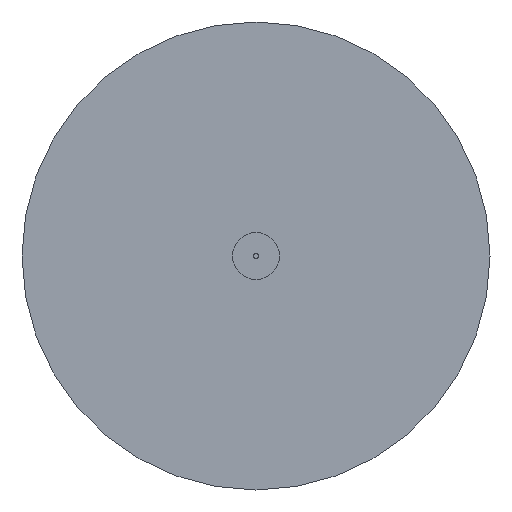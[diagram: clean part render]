
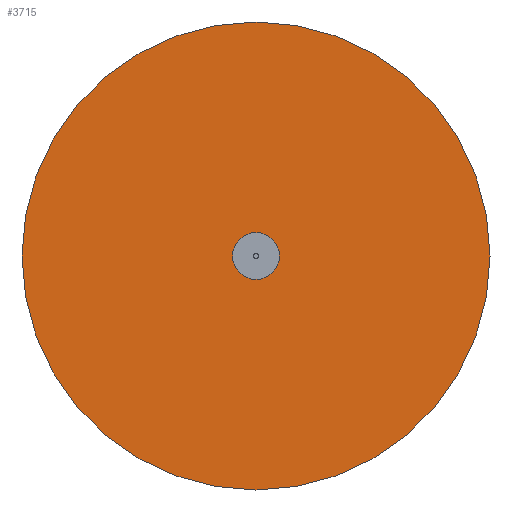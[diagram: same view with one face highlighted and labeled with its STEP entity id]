
A CAD part, front view. The second image highlights one B-rep face of the part: STEP entity #3715.
In plain terms, the highlighted planar face has unit normal (0, -1, 0).
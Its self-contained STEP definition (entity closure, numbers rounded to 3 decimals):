
#2803=CARTESIAN_POINT('',(50.0,-15.5,0.0));
#2804=VERTEX_POINT('',#2803);
#2820=CARTESIAN_POINT('',(-50.0,-15.5,0.));
#2821=VERTEX_POINT('',#2820);
#2828=CARTESIAN_POINT('',(0.0,-15.5,0.0));
#2829=DIRECTION('',(0.0,-1.0,0.0));
#2830=DIRECTION('',(1.0,0.0,0.0));
#2831=AXIS2_PLACEMENT_3D('',#2828,#2829,#2830);
#2832=CIRCLE('',#2831,50.0);
#2833=EDGE_CURVE('',#2804,#2821,#2832,.T.);
#3298=CARTESIAN_POINT('',(5.0,-15.5,0.0));
#3299=VERTEX_POINT('',#3298);
#3324=CARTESIAN_POINT('',(-5.0,-15.5,0.));
#3325=VERTEX_POINT('',#3324);
#3332=CARTESIAN_POINT('',(0.0,-15.5,0.0));
#3333=DIRECTION('',(0.0,-1.0,0.0));
#3334=DIRECTION('',(1.0,0.0,0.0));
#3335=AXIS2_PLACEMENT_3D('',#3332,#3333,#3334);
#3336=CIRCLE('',#3335,5.0);
#3337=EDGE_CURVE('',#3325,#3299,#3336,.T.);
#3416=CARTESIAN_POINT('',(0.0,-15.5,0.0));
#3417=DIRECTION('',(0.0,-1.0,0.0));
#3418=DIRECTION('',(1.0,0.0,0.0));
#3419=AXIS2_PLACEMENT_3D('',#3416,#3417,#3418);
#3420=CIRCLE('',#3419,5.0);
#3421=EDGE_CURVE('',#3299,#3325,#3420,.T.);
#3690=CARTESIAN_POINT('',(0.0,-15.5,0.0));
#3691=DIRECTION('',(0.0,-1.0,0.0));
#3692=DIRECTION('',(1.0,0.0,0.0));
#3693=AXIS2_PLACEMENT_3D('',#3690,#3691,#3692);
#3694=CIRCLE('',#3693,50.0);
#3695=EDGE_CURVE('',#2821,#2804,#3694,.T.);
#3702=CARTESIAN_POINT('',(27.5,-15.5,0.0));
#3703=DIRECTION('',(0.0,-1.0,0.0));
#3704=DIRECTION('',(0.0,0.0,-1.0));
#3705=AXIS2_PLACEMENT_3D('',#3702,#3703,#3704);
#3706=PLANE('',#3705);
#3707=ORIENTED_EDGE('',*,*,#2833,.T.);
#3708=ORIENTED_EDGE('',*,*,#3695,.T.);
#3709=EDGE_LOOP('',(#3707,#3708));
#3710=FACE_OUTER_BOUND('',#3709,.T.);
#3711=ORIENTED_EDGE('',*,*,#3421,.F.);
#3712=ORIENTED_EDGE('',*,*,#3337,.F.);
#3713=EDGE_LOOP('',(#3711,#3712));
#3714=FACE_BOUND('',#3713,.T.);
#3715=ADVANCED_FACE('',(#3710,#3714),#3706,.T.);
